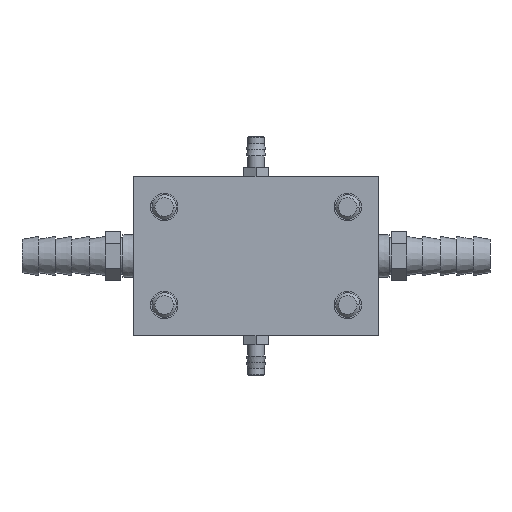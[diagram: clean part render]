
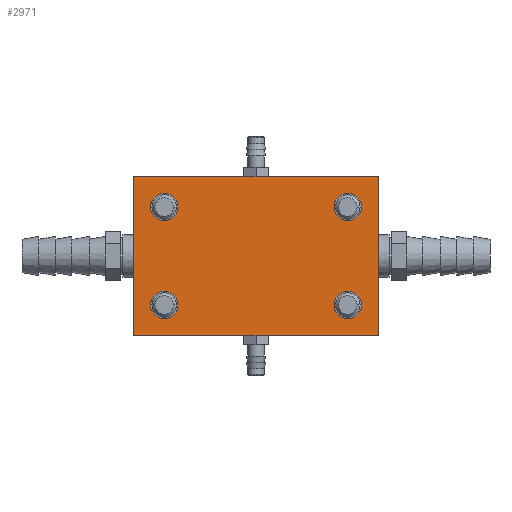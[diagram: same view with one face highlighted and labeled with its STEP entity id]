
A CAD part, left-side view. The second image highlights one B-rep face of the part: STEP entity #2971.
In plain terms, the highlighted planar face has unit normal (-1, 0, 0).
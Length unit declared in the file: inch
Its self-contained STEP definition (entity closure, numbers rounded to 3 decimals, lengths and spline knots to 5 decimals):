
#2709=CARTESIAN_POINT('',(-3.625,-0.9375,-0.5));
#2710=DIRECTION('',(1.,0.,0.));
#2711=DIRECTION('',(0.,-1.,0.));
#2712=AXIS2_PLACEMENT_3D('',#2709,#2710,#2711);
#2714=CARTESIAN_POINT('',(-3.625,-0.9375,-0.5));
#2715=DIRECTION('',(1.,0.,0.));
#2716=DIRECTION('',(0.,1.,0.));
#2717=AXIS2_PLACEMENT_3D('',#2714,#2715,#2716);
#2719=CARTESIAN_POINT('',(-3.625,0.9375,-0.5));
#2720=DIRECTION('',(1.,0.,0.));
#2721=DIRECTION('',(0.,-1.,0.));
#2722=AXIS2_PLACEMENT_3D('',#2719,#2720,#2721);
#2724=CARTESIAN_POINT('',(-3.625,0.9375,-0.5));
#2725=DIRECTION('',(1.,0.,0.));
#2726=DIRECTION('',(0.,1.,0.));
#2727=AXIS2_PLACEMENT_3D('',#2724,#2725,#2726);
#2729=CARTESIAN_POINT('',(-3.625,0.9375,0.5));
#2730=DIRECTION('',(1.,0.,0.));
#2731=DIRECTION('',(0.,-1.,0.));
#2732=AXIS2_PLACEMENT_3D('',#2729,#2730,#2731);
#2734=CARTESIAN_POINT('',(-3.625,0.9375,0.5));
#2735=DIRECTION('',(1.,0.,0.));
#2736=DIRECTION('',(0.,1.,0.));
#2737=AXIS2_PLACEMENT_3D('',#2734,#2735,#2736);
#2739=CARTESIAN_POINT('',(-3.625,-0.9375,0.5));
#2740=DIRECTION('',(1.,0.,0.));
#2741=DIRECTION('',(0.,-1.,0.));
#2742=AXIS2_PLACEMENT_3D('',#2739,#2740,#2741);
#2744=CARTESIAN_POINT('',(-3.625,-0.9375,0.5));
#2745=DIRECTION('',(1.,0.,0.));
#2746=DIRECTION('',(0.,1.,0.));
#2747=AXIS2_PLACEMENT_3D('',#2744,#2745,#2746);
#2841=DIRECTION('',(0.,0.,-1.));
#2842=VECTOR('',#2841,1.625);
#2843=CARTESIAN_POINT('',(-3.625,-1.25,0.8125));
#2844=LINE('',#2843,#2842);
#2849=DIRECTION('',(0.,1.,0.));
#2850=VECTOR('',#2849,2.5);
#2851=CARTESIAN_POINT('',(-3.625,-1.25,-0.8125));
#2852=LINE('',#2851,#2850);
#2853=DIRECTION('',(0.,0.,1.));
#2854=VECTOR('',#2853,1.625);
#2855=CARTESIAN_POINT('',(-3.625,1.25,-0.8125));
#2856=LINE('',#2855,#2854);
#2861=DIRECTION('',(0.,-1.,0.));
#2862=VECTOR('',#2861,2.5);
#2863=CARTESIAN_POINT('',(-3.625,1.25,0.8125));
#2864=LINE('',#2863,#2862);
#2873=CARTESIAN_POINT('',(-3.625,-1.25,-0.8125));
#2874=CARTESIAN_POINT('',(-3.625,1.25,-0.8125));
#2875=VERTEX_POINT('',#2873);
#2876=VERTEX_POINT('',#2874);
#2879=CARTESIAN_POINT('',(-3.625,-1.25,0.8125));
#2880=VERTEX_POINT('',#2879);
#2881=CARTESIAN_POINT('',(-3.625,1.25,0.8125));
#2882=VERTEX_POINT('',#2881);
#2885=CARTESIAN_POINT('',(-3.625,1.07813,0.5));
#2887=VERTEX_POINT('',#2885);
#2889=CARTESIAN_POINT('',(-3.625,0.79688,0.5));
#2891=VERTEX_POINT('',#2889);
#2893=CARTESIAN_POINT('',(-3.625,-0.79688,0.5));
#2895=VERTEX_POINT('',#2893);
#2897=CARTESIAN_POINT('',(-3.625,-1.07813,0.5));
#2899=VERTEX_POINT('',#2897);
#2901=CARTESIAN_POINT('',(-3.625,1.07813,-0.5));
#2903=VERTEX_POINT('',#2901);
#2905=CARTESIAN_POINT('',(-3.625,0.79688,-0.5));
#2907=VERTEX_POINT('',#2905);
#2909=CARTESIAN_POINT('',(-3.625,-0.79688,-0.5));
#2911=VERTEX_POINT('',#2909);
#2913=CARTESIAN_POINT('',(-3.625,-1.07813,-0.5));
#2915=VERTEX_POINT('',#2913);
#2933=CARTESIAN_POINT('',(-3.625,0.,0.));
#2934=DIRECTION('',(1.,0.,0.));
#2935=DIRECTION('',(0.,-1.,0.));
#2936=AXIS2_PLACEMENT_3D('',#2933,#2934,#2935);
#2937=PLANE('',#2936);
#2939=ORIENTED_EDGE('',*,*,#2938,.T.);
#2941=ORIENTED_EDGE('',*,*,#2940,.T.);
#2943=ORIENTED_EDGE('',*,*,#2942,.T.);
#2945=ORIENTED_EDGE('',*,*,#2944,.T.);
#2946=EDGE_LOOP('',(#2939,#2941,#2943,#2945));
#2947=FACE_OUTER_BOUND('',#2946,.F.);
#2949=ORIENTED_EDGE('',*,*,#2948,.F.);
#2951=ORIENTED_EDGE('',*,*,#2950,.F.);
#2952=EDGE_LOOP('',(#2949,#2951));
#2953=FACE_BOUND('',#2952,.F.);
#2954=ORIENTED_EDGE('',*,*,#2922,.F.);
#2956=ORIENTED_EDGE('',*,*,#2955,.F.);
#2957=EDGE_LOOP('',(#2954,#2956));
#2958=FACE_BOUND('',#2957,.F.);
#2960=ORIENTED_EDGE('',*,*,#2959,.F.);
#2962=ORIENTED_EDGE('',*,*,#2961,.F.);
#2963=EDGE_LOOP('',(#2960,#2962));
#2964=FACE_BOUND('',#2963,.F.);
#2966=ORIENTED_EDGE('',*,*,#2965,.F.);
#2968=ORIENTED_EDGE('',*,*,#2967,.F.);
#2969=EDGE_LOOP('',(#2966,#2968));
#2970=FACE_BOUND('',#2969,.F.);
#2713=CIRCLE('',#2712,0.14063);
#2718=CIRCLE('',#2717,0.14063);
#2723=CIRCLE('',#2722,0.14063);
#2728=CIRCLE('',#2727,0.14063);
#2733=CIRCLE('',#2732,0.14063);
#2738=CIRCLE('',#2737,0.14063);
#2743=CIRCLE('',#2742,0.14063);
#2748=CIRCLE('',#2747,0.14063);
#2922=EDGE_CURVE('',#2891,#2887,#2733,.T.);
#2938=EDGE_CURVE('',#2875,#2876,#2852,.T.);
#2940=EDGE_CURVE('',#2876,#2882,#2856,.T.);
#2942=EDGE_CURVE('',#2882,#2880,#2864,.T.);
#2944=EDGE_CURVE('',#2880,#2875,#2844,.T.);
#2948=EDGE_CURVE('',#2907,#2903,#2723,.T.);
#2950=EDGE_CURVE('',#2903,#2907,#2728,.T.);
#2955=EDGE_CURVE('',#2887,#2891,#2738,.T.);
#2959=EDGE_CURVE('',#2899,#2895,#2743,.T.);
#2961=EDGE_CURVE('',#2895,#2899,#2748,.T.);
#2965=EDGE_CURVE('',#2915,#2911,#2713,.T.);
#2967=EDGE_CURVE('',#2911,#2915,#2718,.T.);
#2971=ADVANCED_FACE('',(#2947,#2953,#2958,#2964,#2970),#2937,.F.);
